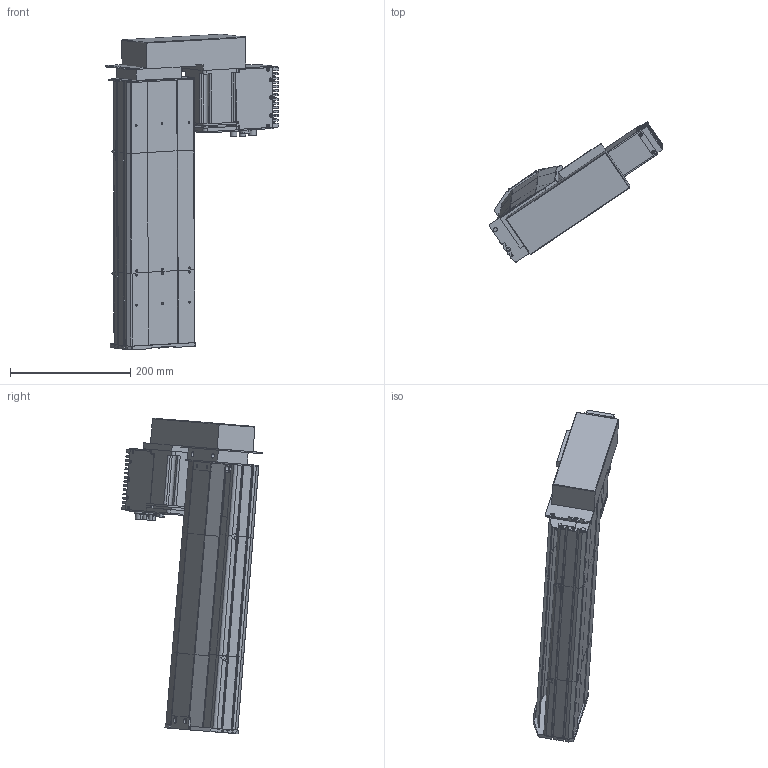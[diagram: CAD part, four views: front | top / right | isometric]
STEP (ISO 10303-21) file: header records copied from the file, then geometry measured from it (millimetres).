
FILE_DESCRIPTION (( 'STEP AP203' ), '1' );
FILE_NAME ('D14 TSH M4 BL L10 S200.STEP', '2012-10-11T07:34:07', ( '' ), ( '' ), 'SwSTEP 2.0', 'SolidWorks 2010', '' );
FILE_SCHEMA (( 'CONFIG_CONTROL_DESIGN' ));
Length unit declared in the file: millimetre
Products named in the file (23): corpl tail D14_Default_2; couvercle D14_Default_2; Moteur_2; T犨e contre le moteur_2; Tôle Arrière_2; Couvercle_2; Tôle latérale_2; Connecteur rond D12 4cts_2; Radiateur_2; Vis TF 3 torkx_2; couvercle D14 head_Default_2; plaque de  bout tail D14_Default_2; couvercle D14 course L200; T犨e fond_2; Sub D 9cts_2; Connecteur rond D10 3cts_2; Moteur 70BLDC90A_2; Colonnette_2; Pièce200; plaque de bout head D14 BL; D14 TSH M4 BL L10 S200; corp head D14_Default_2; plaque de  bout head D14 MD_Default_2
Assembly tree (49 placements, depth 3):
  D14 TSH M4 BL L10 S200
    plaque de  bout tail D14_Default_2
    couvercle D14_Default_2
    couvercle D14 course L200
    plaque de bout head D14 BL
    Moteur_2
      Vis TF 3 torkx_2  x26
      Colonnette_2
      Connecteur rond D10 3cts_2  x2
      Radiateur_2
      T犨e fond_2
      Connecteur rond D12 4cts_2
      Sub D 9cts_2
      Moteur 70BLDC90A_2
      Tôle latérale_2  x2
      T犨e contre le moteur_2
      Tôle Arrière_2
      Couvercle_2
    plaque de  bout head D14 MD_Default_2
    Pièce200
    corpl tail D14_Default_2
    corp head D14_Default_2
    couvercle D14 head_Default_2
Bounding box: 289.09 x 233.59 x 525.25 mm (x, y, z)
Volume: 2620954.5 mm3; surface area: 724667.6 mm2
Topology: 70 solids, 70 shells, 2405 faces, 6281 edges, 4140 vertices
Faces by surface type: plane 1298, cylinder 843, cone 134, bspline 130
Entity records: 65117 total; most frequent: CARTESIAN_POINT 20920, ORIENTED_EDGE 8616, DIRECTION 8244, EDGE_CURVE 4308, VECTOR 2880, LINE 2880, VERTEX_POINT 2846, AXIS2_PLACEMENT_3D 2682
